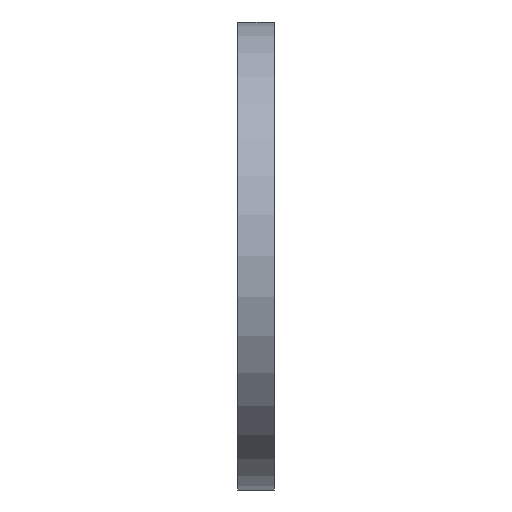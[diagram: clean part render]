
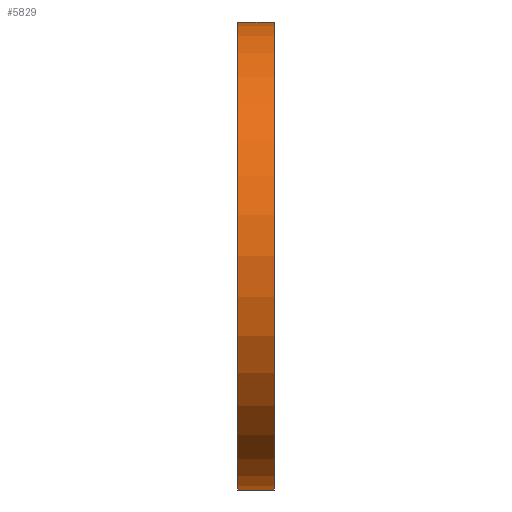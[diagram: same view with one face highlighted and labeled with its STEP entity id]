
A CAD part, left-side view. The second image highlights one B-rep face of the part: STEP entity #5829.
In plain terms, the highlighted cylindrical face has radius 16 mm (diameter 32 mm), a partial arc.
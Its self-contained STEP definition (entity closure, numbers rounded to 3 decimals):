
#647 = VECTOR ( 'NONE', #3960, 1000. ) ;
#730 = DIRECTION ( 'NONE',  ( 0., -1., 0. ) ) ;
#849 = ORIENTED_EDGE ( 'NONE', *, *, #4404, .F. ) ;
#997 = DIRECTION ( 'NONE',  ( 0., 0., 1. ) ) ;
#1011 = CIRCLE ( 'NONE', #2056, 16. ) ;
#1039 = FACE_OUTER_BOUND ( 'NONE', #4262, .T. ) ;
#1317 = VERTEX_POINT ( 'NONE', #6162 ) ;
#1357 = CARTESIAN_POINT ( 'NONE',  ( 0., 2.5, 0. ) ) ;
#1463 = CIRCLE ( 'NONE', #2869, 16. ) ;
#1520 = EDGE_CURVE ( 'NONE', #6939, #4113, #1011, .T. ) ;
#1801 = DIRECTION ( 'NONE',  ( 0., 0., 1. ) ) ;
#1805 = CARTESIAN_POINT ( 'NONE',  ( 0., 2.5, 16. ) ) ;
#1851 = AXIS2_PLACEMENT_3D ( 'NONE', #1357, #730, #5432 ) ;
#2056 = AXIS2_PLACEMENT_3D ( 'NONE', #7714, #7167, #997 ) ;
#2869 = AXIS2_PLACEMENT_3D ( 'NONE', #4886, #6078, #1801 ) ;
#3191 = ORIENTED_EDGE ( 'NONE', *, *, #1520, .T. ) ;
#3352 = CARTESIAN_POINT ( 'NONE',  ( 0., 0., -16. ) ) ;
#3400 = ORIENTED_EDGE ( 'NONE', *, *, #4010, .F. ) ;
#3530 = CARTESIAN_POINT ( 'NONE',  ( 0., 2.5, 16. ) ) ;
#3960 = DIRECTION ( 'NONE',  ( 0., -1., 0. ) ) ;
#4010 = EDGE_CURVE ( 'NONE', #5756, #4113, #5588, .T. ) ;
#4113 = VERTEX_POINT ( 'NONE', #6212 ) ;
#4262 = EDGE_LOOP ( 'NONE', ( #3191, #3400, #849, #5779 ) ) ;
#4380 = LINE ( 'NONE', #7701, #647 ) ;
#4404 = EDGE_CURVE ( 'NONE', #1317, #5756, #1463, .T. ) ;
#4886 = CARTESIAN_POINT ( 'NONE',  ( 0., 2.5, 0. ) ) ;
#5432 = DIRECTION ( 'NONE',  ( 0., 0., -1. ) ) ;
#5588 = LINE ( 'NONE', #1805, #7123 ) ;
#5756 = VERTEX_POINT ( 'NONE', #3530 ) ;
#5779 = ORIENTED_EDGE ( 'NONE', *, *, #6442, .T. ) ;
#5829 = ADVANCED_FACE ( 'NONE', ( #1039 ), #7356, .T. ) ;
#6078 = DIRECTION ( 'NONE',  ( 0., 1., 0. ) ) ;
#6085 = DIRECTION ( 'NONE',  ( 0., -1., 0. ) ) ;
#6162 = CARTESIAN_POINT ( 'NONE',  ( 0., 2.5, -16. ) ) ;
#6212 = CARTESIAN_POINT ( 'NONE',  ( 0., 0., 16. ) ) ;
#6442 = EDGE_CURVE ( 'NONE', #1317, #6939, #4380, .T. ) ;
#6939 = VERTEX_POINT ( 'NONE', #3352 ) ;
#7123 = VECTOR ( 'NONE', #6085, 1000. ) ;
#7167 = DIRECTION ( 'NONE',  ( 0., 1., 0. ) ) ;
#7356 = CYLINDRICAL_SURFACE ( 'NONE', #1851, 16. ) ;
#7701 = CARTESIAN_POINT ( 'NONE',  ( 0., 2.5, -16. ) ) ;
#7714 = CARTESIAN_POINT ( 'NONE',  ( 0., 0., 0. ) ) ;
